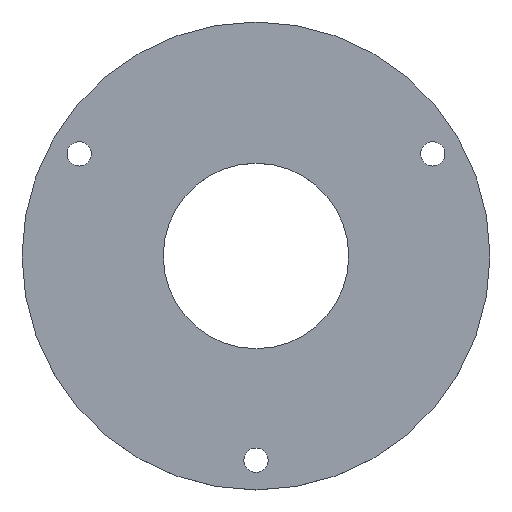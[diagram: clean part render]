
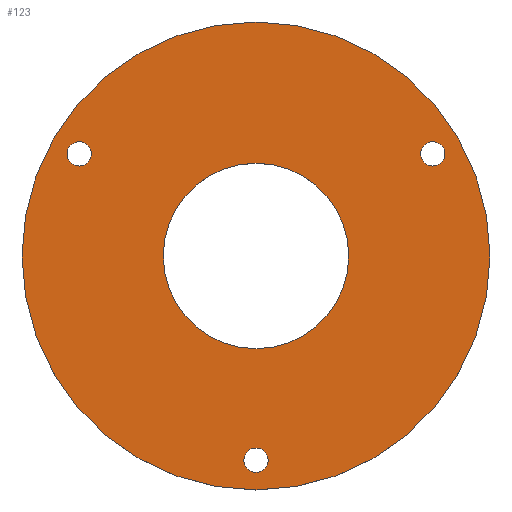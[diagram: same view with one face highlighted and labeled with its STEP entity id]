
A CAD part, top view. The second image highlights one B-rep face of the part: STEP entity #123.
In plain terms, the highlighted planar face has unit normal (0, 0, 1).
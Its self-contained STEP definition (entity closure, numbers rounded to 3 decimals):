
#39 = EDGE_CURVE('',#40,#40,#42,.T.);
#40 = VERTEX_POINT('',#41);
#41 = CARTESIAN_POINT('',(21.2,0.,8.4));
#42 = SURFACE_CURVE('',#43,(#48,#60),.PCURVE_S1.);
#43 = CIRCLE('',#44,21.2);
#44 = AXIS2_PLACEMENT_3D('',#45,#46,#47);
#45 = CARTESIAN_POINT('',(0.,0.,8.4));
#46 = DIRECTION('',(0.,0.,1.));
#47 = DIRECTION('',(1.,0.,-0.));
#48 = PCURVE('',#49,#54);
#49 = CYLINDRICAL_SURFACE('',#50,21.2);
#50 = AXIS2_PLACEMENT_3D('',#51,#52,#53);
#51 = CARTESIAN_POINT('',(0.,0.,6.4));
#52 = DIRECTION('',(0.,0.,1.));
#53 = DIRECTION('',(1.,0.,-0.));
#54 = DEFINITIONAL_REPRESENTATION('',(#55),#59);
#55 = LINE('',#56,#57);
#56 = CARTESIAN_POINT('',(0.,2.));
#57 = VECTOR('',#58,1.);
#58 = DIRECTION('',(1.,0.));
#59 = ( GEOMETRIC_REPRESENTATION_CONTEXT(2) 
PARAMETRIC_REPRESENTATION_CONTEXT() REPRESENTATION_CONTEXT('2D SPACE',''
  ) );
#60 = PCURVE('',#61,#66);
#61 = PLANE('',#62);
#62 = AXIS2_PLACEMENT_3D('',#63,#64,#65);
#63 = CARTESIAN_POINT('',(0.,0.,8.4));
#64 = DIRECTION('',(0.,0.,1.));
#65 = DIRECTION('',(1.,0.,-0.));
#66 = DEFINITIONAL_REPRESENTATION('',(#67),#71);
#67 = CIRCLE('',#68,21.2);
#68 = AXIS2_PLACEMENT_2D('',#69,#70);
#69 = CARTESIAN_POINT('',(0.,0.));
#70 = DIRECTION('',(1.,0.));
#71 = ( GEOMETRIC_REPRESENTATION_CONTEXT(2) 
PARAMETRIC_REPRESENTATION_CONTEXT() REPRESENTATION_CONTEXT('2D SPACE',''
  ) );
#123 = ADVANCED_FACE('',(#124,#127,#158,#189,#220),#61,.T.);
#124 = FACE_BOUND('',#125,.T.);
#125 = EDGE_LOOP('',(#126));
#126 = ORIENTED_EDGE('',*,*,#39,.T.);
#127 = FACE_BOUND('',#128,.T.);
#128 = EDGE_LOOP('',(#129));
#129 = ORIENTED_EDGE('',*,*,#130,.F.);
#130 = EDGE_CURVE('',#131,#131,#133,.T.);
#131 = VERTEX_POINT('',#132);
#132 = CARTESIAN_POINT('',(1.1,-18.5,8.4));
#133 = SURFACE_CURVE('',#134,(#139,#146),.PCURVE_S1.);
#134 = CIRCLE('',#135,1.1);
#135 = AXIS2_PLACEMENT_3D('',#136,#137,#138);
#136 = CARTESIAN_POINT('',(0.,-18.5,8.4));
#137 = DIRECTION('',(0.,0.,1.));
#138 = DIRECTION('',(1.,0.,-0.));
#139 = PCURVE('',#61,#140);
#140 = DEFINITIONAL_REPRESENTATION('',(#141),#145);
#141 = CIRCLE('',#142,1.1);
#142 = AXIS2_PLACEMENT_2D('',#143,#144);
#143 = CARTESIAN_POINT('',(0.,-18.5));
#144 = DIRECTION('',(1.,0.));
#145 = ( GEOMETRIC_REPRESENTATION_CONTEXT(2) 
PARAMETRIC_REPRESENTATION_CONTEXT() REPRESENTATION_CONTEXT('2D SPACE',''
  ) );
#146 = PCURVE('',#147,#152);
#147 = CYLINDRICAL_SURFACE('',#148,1.1);
#148 = AXIS2_PLACEMENT_3D('',#149,#150,#151);
#149 = CARTESIAN_POINT('',(0.,-18.5,-11.));
#150 = DIRECTION('',(0.,0.,1.));
#151 = DIRECTION('',(1.,0.,-0.));
#152 = DEFINITIONAL_REPRESENTATION('',(#153),#157);
#153 = LINE('',#154,#155);
#154 = CARTESIAN_POINT('',(0.,19.4));
#155 = VECTOR('',#156,1.);
#156 = DIRECTION('',(1.,0.));
#157 = ( GEOMETRIC_REPRESENTATION_CONTEXT(2) 
PARAMETRIC_REPRESENTATION_CONTEXT() REPRESENTATION_CONTEXT('2D SPACE',''
  ) );
#158 = FACE_BOUND('',#159,.T.);
#159 = EDGE_LOOP('',(#160));
#160 = ORIENTED_EDGE('',*,*,#161,.F.);
#161 = EDGE_CURVE('',#162,#162,#164,.T.);
#162 = VERTEX_POINT('',#163);
#163 = CARTESIAN_POINT('',(-14.921,9.25,8.4));
#164 = SURFACE_CURVE('',#165,(#170,#177),.PCURVE_S1.);
#165 = CIRCLE('',#166,1.1);
#166 = AXIS2_PLACEMENT_3D('',#167,#168,#169);
#167 = CARTESIAN_POINT('',(-16.021,9.25,8.4));
#168 = DIRECTION('',(0.,0.,1.));
#169 = DIRECTION('',(1.,0.,-0.));
#170 = PCURVE('',#61,#171);
#171 = DEFINITIONAL_REPRESENTATION('',(#172),#176);
#172 = CIRCLE('',#173,1.1);
#173 = AXIS2_PLACEMENT_2D('',#174,#175);
#174 = CARTESIAN_POINT('',(-16.021,9.25));
#175 = DIRECTION('',(1.,0.));
#176 = ( GEOMETRIC_REPRESENTATION_CONTEXT(2) 
PARAMETRIC_REPRESENTATION_CONTEXT() REPRESENTATION_CONTEXT('2D SPACE',''
  ) );
#177 = PCURVE('',#178,#183);
#178 = CYLINDRICAL_SURFACE('',#179,1.1);
#179 = AXIS2_PLACEMENT_3D('',#180,#181,#182);
#180 = CARTESIAN_POINT('',(-16.021,9.25,-11.));
#181 = DIRECTION('',(0.,0.,1.));
#182 = DIRECTION('',(1.,0.,-0.));
#183 = DEFINITIONAL_REPRESENTATION('',(#184),#188);
#184 = LINE('',#185,#186);
#185 = CARTESIAN_POINT('',(0.,19.4));
#186 = VECTOR('',#187,1.);
#187 = DIRECTION('',(1.,0.));
#188 = ( GEOMETRIC_REPRESENTATION_CONTEXT(2) 
PARAMETRIC_REPRESENTATION_CONTEXT() REPRESENTATION_CONTEXT('2D SPACE',''
  ) );
#189 = FACE_BOUND('',#190,.T.);
#190 = EDGE_LOOP('',(#191));
#191 = ORIENTED_EDGE('',*,*,#192,.F.);
#192 = EDGE_CURVE('',#193,#193,#195,.T.);
#193 = VERTEX_POINT('',#194);
#194 = CARTESIAN_POINT('',(8.4,0.,8.4));
#195 = SURFACE_CURVE('',#196,(#201,#208),.PCURVE_S1.);
#196 = CIRCLE('',#197,8.4);
#197 = AXIS2_PLACEMENT_3D('',#198,#199,#200);
#198 = CARTESIAN_POINT('',(0.,0.,8.4));
#199 = DIRECTION('',(0.,0.,1.));
#200 = DIRECTION('',(1.,0.,-0.));
#201 = PCURVE('',#61,#202);
#202 = DEFINITIONAL_REPRESENTATION('',(#203),#207);
#203 = CIRCLE('',#204,8.4);
#204 = AXIS2_PLACEMENT_2D('',#205,#206);
#205 = CARTESIAN_POINT('',(0.,0.));
#206 = DIRECTION('',(1.,0.));
#207 = ( GEOMETRIC_REPRESENTATION_CONTEXT(2) 
PARAMETRIC_REPRESENTATION_CONTEXT() REPRESENTATION_CONTEXT('2D SPACE',''
  ) );
#208 = PCURVE('',#209,#214);
#209 = CYLINDRICAL_SURFACE('',#210,8.4);
#210 = AXIS2_PLACEMENT_3D('',#211,#212,#213);
#211 = CARTESIAN_POINT('',(0.,0.,5.4));
#212 = DIRECTION('',(0.,0.,1.));
#213 = DIRECTION('',(1.,0.,-0.));
#214 = DEFINITIONAL_REPRESENTATION('',(#215),#219);
#215 = LINE('',#216,#217);
#216 = CARTESIAN_POINT('',(0.,3.));
#217 = VECTOR('',#218,1.);
#218 = DIRECTION('',(1.,0.));
#219 = ( GEOMETRIC_REPRESENTATION_CONTEXT(2) 
PARAMETRIC_REPRESENTATION_CONTEXT() REPRESENTATION_CONTEXT('2D SPACE',''
  ) );
#220 = FACE_BOUND('',#221,.T.);
#221 = EDGE_LOOP('',(#222));
#222 = ORIENTED_EDGE('',*,*,#223,.F.);
#223 = EDGE_CURVE('',#224,#224,#226,.T.);
#224 = VERTEX_POINT('',#225);
#225 = CARTESIAN_POINT('',(17.121,9.25,8.4));
#226 = SURFACE_CURVE('',#227,(#232,#239),.PCURVE_S1.);
#227 = CIRCLE('',#228,1.1);
#228 = AXIS2_PLACEMENT_3D('',#229,#230,#231);
#229 = CARTESIAN_POINT('',(16.021,9.25,8.4));
#230 = DIRECTION('',(0.,0.,1.));
#231 = DIRECTION('',(1.,0.,-0.));
#232 = PCURVE('',#61,#233);
#233 = DEFINITIONAL_REPRESENTATION('',(#234),#238);
#234 = CIRCLE('',#235,1.1);
#235 = AXIS2_PLACEMENT_2D('',#236,#237);
#236 = CARTESIAN_POINT('',(16.021,9.25));
#237 = DIRECTION('',(1.,0.));
#238 = ( GEOMETRIC_REPRESENTATION_CONTEXT(2) 
PARAMETRIC_REPRESENTATION_CONTEXT() REPRESENTATION_CONTEXT('2D SPACE',''
  ) );
#239 = PCURVE('',#240,#245);
#240 = CYLINDRICAL_SURFACE('',#241,1.1);
#241 = AXIS2_PLACEMENT_3D('',#242,#243,#244);
#242 = CARTESIAN_POINT('',(16.021,9.25,-11.));
#243 = DIRECTION('',(0.,0.,1.));
#244 = DIRECTION('',(1.,0.,-0.));
#245 = DEFINITIONAL_REPRESENTATION('',(#246),#250);
#246 = LINE('',#247,#248);
#247 = CARTESIAN_POINT('',(0.,19.4));
#248 = VECTOR('',#249,1.);
#249 = DIRECTION('',(1.,0.));
#250 = ( GEOMETRIC_REPRESENTATION_CONTEXT(2) 
PARAMETRIC_REPRESENTATION_CONTEXT() REPRESENTATION_CONTEXT('2D SPACE',''
  ) );
